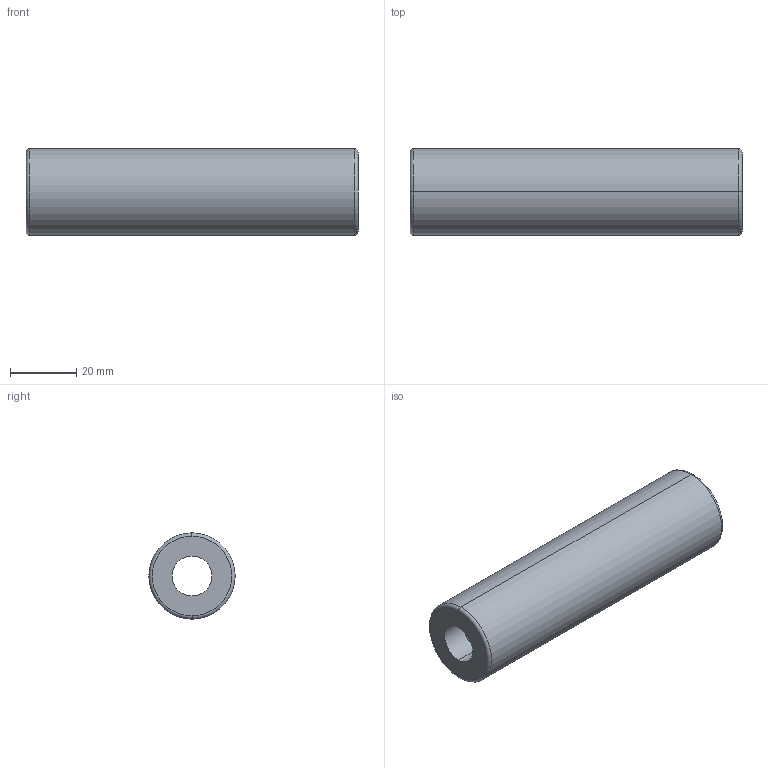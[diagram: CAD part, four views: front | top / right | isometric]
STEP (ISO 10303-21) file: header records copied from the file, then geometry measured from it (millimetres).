
FILE_DESCRIPTION (( 'STEP AP214' ), '1' );
FILE_NAME ('BR20 26x100.STEP', '2020-01-21T11:29:17', ( 'August' ), ( '' ), 'SwSTEP 2.0', 'SolidWorks 2018', '' );
FILE_SCHEMA (( 'AUTOMOTIVE_DESIGN' ));
Length unit declared in the file: millimetre
Products named in the file (1): BR20 26x100
Bounding box: 100 x 26 x 26 mm (x, y, z)
Volume: 17914.5 mm3; surface area: 15358 mm2
Topology: 1 solids, 1 shells, 14 faces, 28 edges, 16 vertices
Faces by surface type: cylinder 6, torus 4, cone 2, plane 2
Entity records: 406 total; most frequent: DIRECTION 78, CARTESIAN_POINT 59, ORIENTED_EDGE 56, AXIS2_PLACEMENT_3D 35, EDGE_CURVE 28, CIRCLE 20, EDGE_LOOP 16, VERTEX_POINT 16
